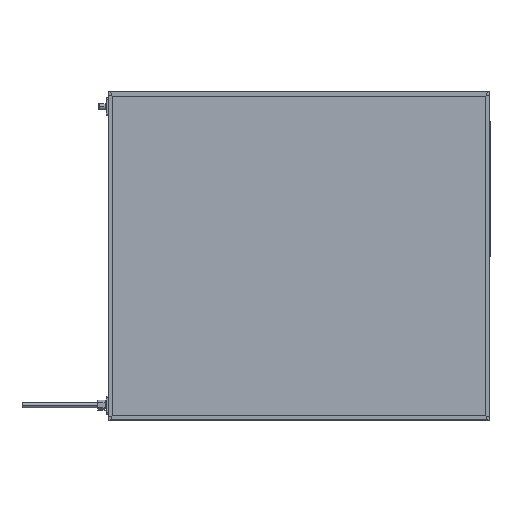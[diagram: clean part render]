
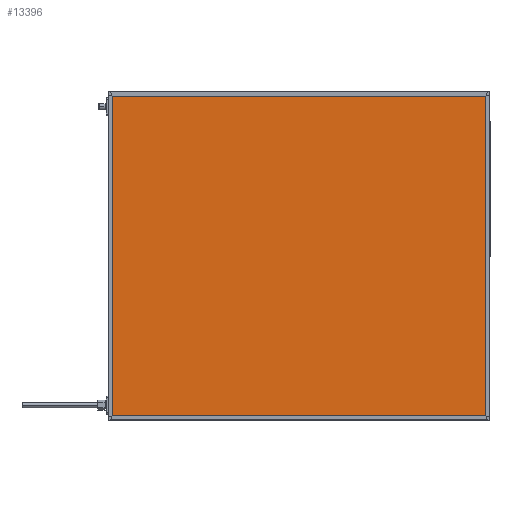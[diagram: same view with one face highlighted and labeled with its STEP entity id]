
A CAD part, top view. The second image highlights one B-rep face of the part: STEP entity #13396.
In plain terms, the highlighted planar face has unit normal (0, 0, 1).
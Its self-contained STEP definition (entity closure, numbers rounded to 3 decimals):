
#2208 = VECTOR ( 'NONE', #13114, 1000. ) ;
#2368 = DIRECTION ( 'NONE',  ( 0., 0., -1. ) ) ;
#2462 = DIRECTION ( 'NONE',  ( -1., 0., 0. ) ) ;
#3108 = VECTOR ( 'NONE', #7639, 1000. ) ;
#3415 = CARTESIAN_POINT ( 'NONE',  ( 696., 4., 41.85 ) ) ;
#3732 = EDGE_LOOP ( 'NONE', ( #5811, #4671, #7240, #12181 ) ) ;
#4420 = EDGE_CURVE ( 'NONE', #16960, #16545, #17832, .T. ) ;
#4483 = CARTESIAN_POINT ( 'NONE',  ( 696., 596., 41.85 ) ) ;
#4671 = ORIENTED_EDGE ( 'NONE', *, *, #4420, .T. ) ;
#5811 = ORIENTED_EDGE ( 'NONE', *, *, #6038, .T. ) ;
#6009 = LINE ( 'NONE', #8746, #3108 ) ;
#6038 = EDGE_CURVE ( 'NONE', #10119, #16960, #6940, .T. ) ;
#6239 = VECTOR ( 'NONE', #10939, 1000. ) ;
#6346 = DIRECTION ( 'NONE',  ( -1., 0., 0. ) ) ;
#6546 = AXIS2_PLACEMENT_3D ( 'NONE', #12209, #2368, #2462 ) ;
#6940 = LINE ( 'NONE', #15053, #6239 ) ;
#7240 = ORIENTED_EDGE ( 'NONE', *, *, #14999, .T. ) ;
#7467 = CARTESIAN_POINT ( 'NONE',  ( 0., 4., 41.85 ) ) ;
#7639 = DIRECTION ( 'NONE',  ( 0., -1., 0. ) ) ;
#8746 = CARTESIAN_POINT ( 'NONE',  ( 4., 0., 41.85 ) ) ;
#8827 = LINE ( 'NONE', #7467, #2208 ) ;
#9171 = CARTESIAN_POINT ( 'NONE',  ( 0., 596., 41.85 ) ) ;
#10119 = VERTEX_POINT ( 'NONE', #3415 ) ;
#10481 = FACE_OUTER_BOUND ( 'NONE', #3732, .T. ) ;
#10877 = CARTESIAN_POINT ( 'NONE',  ( 4., 596., 41.85 ) ) ;
#10939 = DIRECTION ( 'NONE',  ( 0., 1., 0. ) ) ;
#12181 = ORIENTED_EDGE ( 'NONE', *, *, #14078, .T. ) ;
#12209 = CARTESIAN_POINT ( 'NONE',  ( 0., 0., 41.85 ) ) ;
#13053 = CARTESIAN_POINT ( 'NONE',  ( 4., 4., 41.85 ) ) ;
#13114 = DIRECTION ( 'NONE',  ( 1., 0., 0. ) ) ;
#13288 = VERTEX_POINT ( 'NONE', #13053 ) ;
#13396 = ADVANCED_FACE ( 'NONE', ( #10481 ), #14672, .F. ) ;
#14078 = EDGE_CURVE ( 'NONE', #13288, #10119, #8827, .T. ) ;
#14366 = VECTOR ( 'NONE', #6346, 1000. ) ;
#14672 = PLANE ( 'NONE',  #6546 ) ;
#14999 = EDGE_CURVE ( 'NONE', #16545, #13288, #6009, .T. ) ;
#15053 = CARTESIAN_POINT ( 'NONE',  ( 696., 0., 41.85 ) ) ;
#16545 = VERTEX_POINT ( 'NONE', #10877 ) ;
#16960 = VERTEX_POINT ( 'NONE', #4483 ) ;
#17832 = LINE ( 'NONE', #9171, #14366 ) ;
